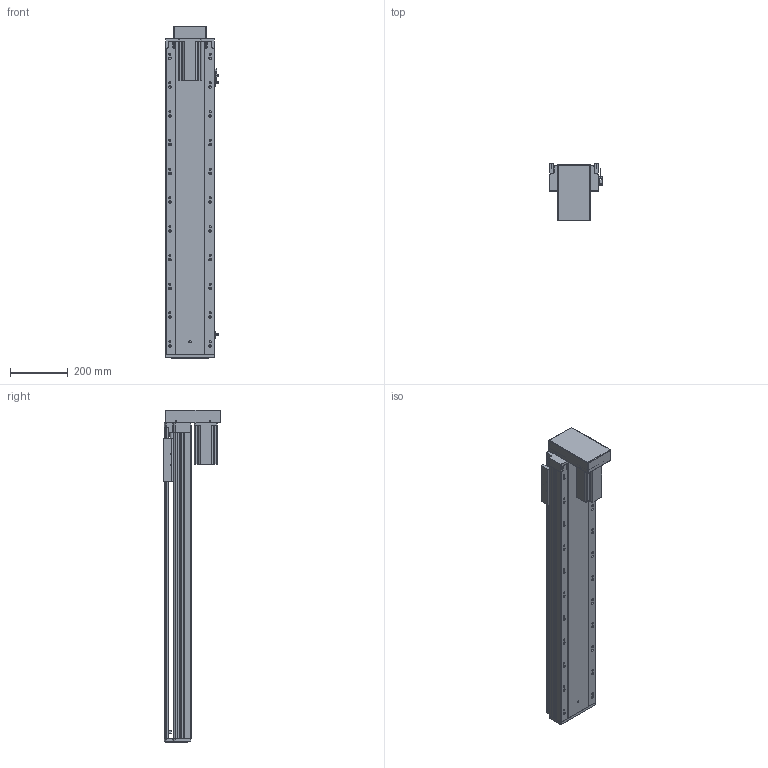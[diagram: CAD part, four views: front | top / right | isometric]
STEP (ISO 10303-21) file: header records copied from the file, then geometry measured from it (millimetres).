
FILE_DESCRIPTION (( 'STEP AP203' ), '1' );
FILE_NAME ('RY170-L2510-300-BK.SLDASM_850.step', '2021-03-12T08:58:27', ( '盈信电脑' ), ( '东莞市道滘镇水果街19号' ), 'SwSTEP 2.0', 'SolidWorks 2012', '' );
FILE_SCHEMA (( 'CONFIG_CONTROL_DESIGN' ));
Products named in the file (14): RY170-L2510-300-BK.SLDASM_850; 怢湛750W萇儂ㄗ80遺ㄘ; RY170-狟殏750W萇儂傷; RY170转折电机端支撑座(7004); RY170狟殏萇儂欶; RY170-狟殏萇儂假蚾啣; 滅袉蝶18-10; 覜茼ん672; 滅袉蝶18-20; RY170外置感应片(200共用）; RY170綴裔啣; RY170-300倰第菁釱-BK_850; RY170-300倰第裔啣-BK_850; 改造-RY170铝滑块25丝杆螺母
Assembly tree (15 placements, depth 3):
  RY170-L2510-300-BK.SLDASM_850
    RY170-300倰第菁釱-BK_850
    改造-RY170铝滑块25丝杆螺母
    RY170-300倰第裔啣-BK_850
    RY170綴裔啣
    覜茼ん672  x3
    RY170外置感应片(200共用）
    滅袉蝶18-20
    滅袉蝶18-10
    RY170转折电机端支撑座(7004)
    RY170-狟殏750W萇儂傷
      RY170-狟殏萇儂假蚾啣
      RY170狟殏萇儂欶
      怢湛750W萇儂ㄗ80遺ㄘ
Bounding box: 183.7 x 200.8 x 1154.5 mm (x, y, z)
Volume: 6547223.7 mm3; surface area: 2018140.2 mm2
Topology: 14 solids, 14 shells, 2252 faces, 6561 edges, 4224 vertices
Faces by surface type: plane 1088, cylinder 971, cone 174, bspline 19
Entity records: 74714 total; most frequent: CARTESIAN_POINT 18791, ORIENTED_EDGE 11866, DIRECTION 10745, EDGE_CURVE 5933, VERTEX_POINT 3904, AXIS2_PLACEMENT_3D 3596, VECTOR 3553, LINE 3553
